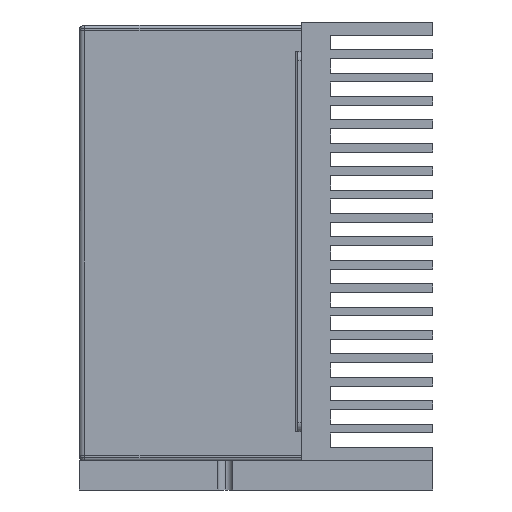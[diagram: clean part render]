
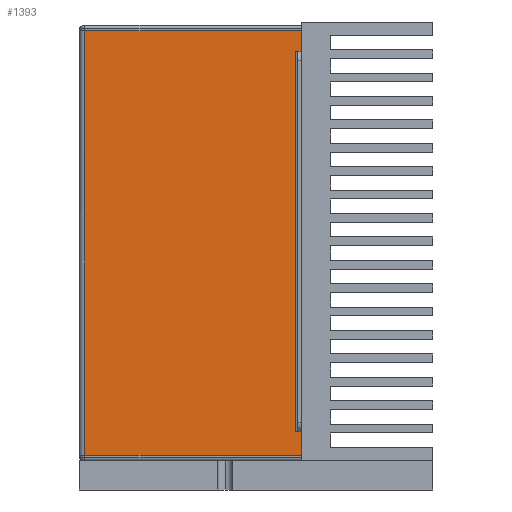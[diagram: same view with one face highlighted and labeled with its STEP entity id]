
A CAD part, left-side view. The second image highlights one B-rep face of the part: STEP entity #1393.
In plain terms, the highlighted planar face has unit normal (-1, 0, 0).
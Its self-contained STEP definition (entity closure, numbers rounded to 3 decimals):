
#128 = LINE ( 'NONE', #6423, #2989 ) ;
#288 = VERTEX_POINT ( 'NONE', #13714 ) ;
#400 = LINE ( 'NONE', #2891, #14021 ) ;
#483 = DIRECTION ( 'NONE',  ( 1., 0., 0. ) ) ;
#736 = EDGE_CURVE ( 'NONE', #10491, #7686, #9000, .T. ) ;
#751 = VECTOR ( 'NONE', #10012, 1000. ) ;
#773 = VECTOR ( 'NONE', #1343, 1000. ) ;
#921 = ORIENTED_EDGE ( 'NONE', *, *, #12146, .F. ) ;
#976 = VERTEX_POINT ( 'NONE', #6939 ) ;
#1343 = DIRECTION ( 'NONE',  ( 0., 1., 0. ) ) ;
#1393 = ADVANCED_FACE ( 'NONE', ( #2507 ), #1675, .F. ) ;
#1509 = CARTESIAN_POINT ( 'NONE',  ( -106.2, -76., -65. ) ) ;
#1675 = PLANE ( 'NONE',  #3034 ) ;
#1689 = VERTEX_POINT ( 'NONE', #6508 ) ;
#2017 = CARTESIAN_POINT ( 'NONE',  ( -106.2, -76., 72.043 ) ) ;
#2225 = CARTESIAN_POINT ( 'NONE',  ( -106.2, -76., 65. ) ) ;
#2251 = VECTOR ( 'NONE', #6533, 1000. ) ;
#2507 = FACE_OUTER_BOUND ( 'NONE', #9889, .T. ) ;
#2612 = CARTESIAN_POINT ( 'NONE',  ( -106.2, -76., 65. ) ) ;
#2726 = CARTESIAN_POINT ( 'NONE',  ( -106.2, -74., -65. ) ) ;
#2788 = VECTOR ( 'NONE', #3049, 1000. ) ;
#2891 = CARTESIAN_POINT ( 'NONE',  ( -106.2, 0., 72.043 ) ) ;
#2949 = CARTESIAN_POINT ( 'NONE',  ( -106.2, 0., 0. ) ) ;
#2989 = VECTOR ( 'NONE', #3859, 1000. ) ;
#3034 = AXIS2_PLACEMENT_3D ( 'NONE', #2949, #483, #11631 ) ;
#3044 = EDGE_CURVE ( 'NONE', #1689, #5373, #128, .T. ) ;
#3049 = DIRECTION ( 'NONE',  ( 0., 0., -1. ) ) ;
#3106 = EDGE_CURVE ( 'NONE', #14805, #288, #10470, .T. ) ;
#3364 = CARTESIAN_POINT ( 'NONE',  ( -106.2, -74., 65. ) ) ;
#3751 = EDGE_CURVE ( 'NONE', #13091, #976, #6046, .T. ) ;
#3859 = DIRECTION ( 'NONE',  ( 0., 0., 1. ) ) ;
#3983 = VERTEX_POINT ( 'NONE', #2225 ) ;
#4327 = CARTESIAN_POINT ( 'NONE',  ( -106.2, -76., 73.75 ) ) ;
#4899 = LINE ( 'NONE', #5218, #12968 ) ;
#4971 = EDGE_CURVE ( 'NONE', #1689, #976, #4899, .T. ) ;
#5010 = CARTESIAN_POINT ( 'NONE',  ( -106.2, -2., 72.043 ) ) ;
#5218 = CARTESIAN_POINT ( 'NONE',  ( -106.2, 0., -73.043 ) ) ;
#5373 = VERTEX_POINT ( 'NONE', #5010 ) ;
#5420 = DIRECTION ( 'NONE',  ( 0., 0., -1. ) ) ;
#5437 = DIRECTION ( 'NONE',  ( 0., -1., 0. ) ) ;
#6046 = LINE ( 'NONE', #4327, #2788 ) ;
#6401 = CARTESIAN_POINT ( 'NONE',  ( -106.2, -76., 65. ) ) ;
#6423 = CARTESIAN_POINT ( 'NONE',  ( -106.2, -2., 0. ) ) ;
#6508 = CARTESIAN_POINT ( 'NONE',  ( -106.2, -2., -73.043 ) ) ;
#6533 = DIRECTION ( 'NONE',  ( 0., -1., 0. ) ) ;
#6939 = CARTESIAN_POINT ( 'NONE',  ( -106.2, -76., -73.043 ) ) ;
#7172 = ORIENTED_EDGE ( 'NONE', *, *, #3106, .F. ) ;
#7686 = VERTEX_POINT ( 'NONE', #3364 ) ;
#7754 = ORIENTED_EDGE ( 'NONE', *, *, #736, .F. ) ;
#8445 = ORIENTED_EDGE ( 'NONE', *, *, #10478, .F. ) ;
#8813 = ORIENTED_EDGE ( 'NONE', *, *, #3751, .F. ) ;
#8829 = VERTEX_POINT ( 'NONE', #2017 ) ;
#8831 = VECTOR ( 'NONE', #8957, 1000. ) ;
#8880 = ORIENTED_EDGE ( 'NONE', *, *, #11331, .F. ) ;
#8923 = DIRECTION ( 'NONE',  ( 0., -1., 0. ) ) ;
#8957 = DIRECTION ( 'NONE',  ( 0., 1., 0. ) ) ;
#9000 = LINE ( 'NONE', #2612, #773 ) ;
#9353 = ORIENTED_EDGE ( 'NONE', *, *, #4971, .T. ) ;
#9574 = DIRECTION ( 'NONE',  ( 0., 0., -1. ) ) ;
#9889 = EDGE_LOOP ( 'NONE', ( #8880, #8445, #11596, #9353, #8813, #9972, #7172, #921, #7754, #12504 ) ) ;
#9972 = ORIENTED_EDGE ( 'NONE', *, *, #11028, .F. ) ;
#10012 = DIRECTION ( 'NONE',  ( 0., -1., 0. ) ) ;
#10184 = CARTESIAN_POINT ( 'NONE',  ( -106.2, -75.833, 65. ) ) ;
#10301 = LINE ( 'NONE', #15251, #15104 ) ;
#10381 = LINE ( 'NONE', #6401, #8831 ) ;
#10470 = LINE ( 'NONE', #13841, #2251 ) ;
#10478 = EDGE_CURVE ( 'NONE', #5373, #8829, #400, .T. ) ;
#10491 = VERTEX_POINT ( 'NONE', #10184 ) ;
#10965 = CARTESIAN_POINT ( 'NONE',  ( -106.2, -76., 73.75 ) ) ;
#11028 = EDGE_CURVE ( 'NONE', #288, #13091, #14960, .T. ) ;
#11121 = CARTESIAN_POINT ( 'NONE',  ( -106.2, -74., -65. ) ) ;
#11331 = EDGE_CURVE ( 'NONE', #8829, #3983, #11487, .T. ) ;
#11487 = LINE ( 'NONE', #10965, #12070 ) ;
#11596 = ORIENTED_EDGE ( 'NONE', *, *, #3044, .F. ) ;
#11631 = DIRECTION ( 'NONE',  ( 0., 1., 0. ) ) ;
#12070 = VECTOR ( 'NONE', #9574, 1000. ) ;
#12146 = EDGE_CURVE ( 'NONE', #7686, #14805, #10301, .T. ) ;
#12504 = ORIENTED_EDGE ( 'NONE', *, *, #15209, .F. ) ;
#12968 = VECTOR ( 'NONE', #8923, 1000. ) ;
#13091 = VERTEX_POINT ( 'NONE', #1509 ) ;
#13714 = CARTESIAN_POINT ( 'NONE',  ( -106.2, -75.833, -65. ) ) ;
#13841 = CARTESIAN_POINT ( 'NONE',  ( -106.2, -74., -65. ) ) ;
#14021 = VECTOR ( 'NONE', #5437, 1000. ) ;
#14805 = VERTEX_POINT ( 'NONE', #11121 ) ;
#14960 = LINE ( 'NONE', #2726, #751 ) ;
#15104 = VECTOR ( 'NONE', #5420, 1000. ) ;
#15209 = EDGE_CURVE ( 'NONE', #3983, #10491, #10381, .T. ) ;
#15251 = CARTESIAN_POINT ( 'NONE',  ( -106.2, -74., 65. ) ) ;
